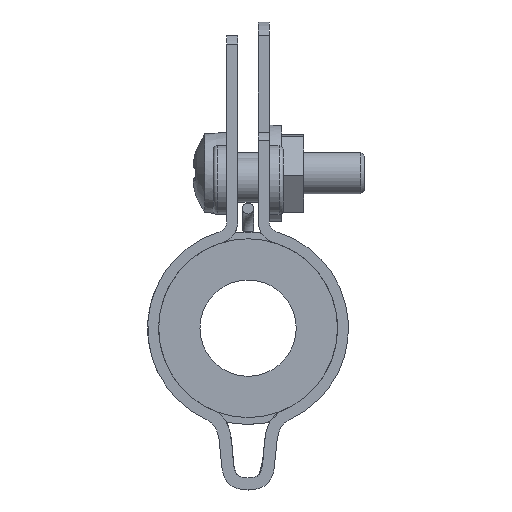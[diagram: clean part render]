
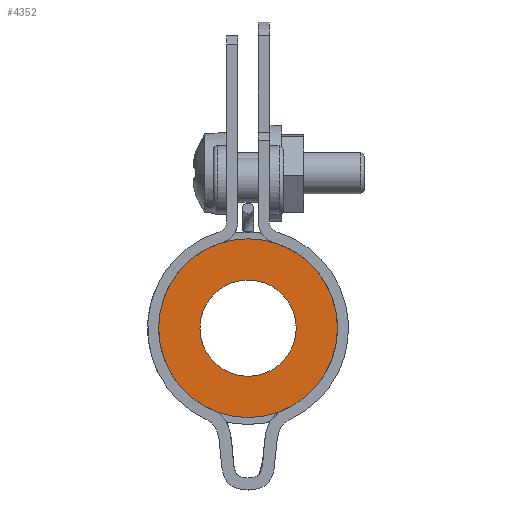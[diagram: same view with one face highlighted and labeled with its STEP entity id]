
A CAD part, front view. The second image highlights one B-rep face of the part: STEP entity #4352.
In plain terms, the highlighted planar face has unit normal (0, -1, 0).
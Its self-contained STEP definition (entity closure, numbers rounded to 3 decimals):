
#751=FACE_BOUND($,#1315,.T.);
#752=FACE_BOUND($,#1316,.T.);
#1315=EDGE_LOOP($,(#3479));
#1316=EDGE_LOOP($,(#3480));
#1552=CIRCLE($,#4714,6.5);
#1589=CIRCLE($,#4785,3.5);
#1909=VERTEX_POINT($,#7358);
#1954=VERTEX_POINT($,#7502);
#2443=EDGE_CURVE($,#1909,#1909,#1552,.T.);
#2488=EDGE_CURVE($,#1954,#1954,#1589,.T.);
#3479=ORIENTED_EDGE($,*,*,#2488,.T.);
#3480=ORIENTED_EDGE($,*,*,#2443,.T.);
#3904=PLANE($,#4787);
#4352=ADVANCED_FACE($,(#751,#752),#3904,.T.);
#4714=AXIS2_PLACEMENT_3D($,#7359,#5671,#5672);
#4785=AXIS2_PLACEMENT_3D($,#7503,#5817,#5818);
#4787=AXIS2_PLACEMENT_3D($,#7505,#5821,#5822);
#5671=DIRECTION('center_axis',(0.,-1.,0.));
#5672=DIRECTION('ref_axis',(1.,0.,0.));
#5817=DIRECTION('center_axis',(0.,1.,0.));
#5818=DIRECTION('ref_axis',(1.,0.,0.));
#5821=DIRECTION('center_axis',(0.,-1.,0.));
#5822=DIRECTION('ref_axis',(0.,0.,-1.));
#7358=CARTESIAN_POINT('',(15.145,46.577,19.693));
#7359=CARTESIAN_POINT('Origin',(21.645,46.577,19.693));
#7502=CARTESIAN_POINT('',(18.145,46.577,19.693));
#7503=CARTESIAN_POINT('Origin',(21.645,46.577,19.693));
#7505=CARTESIAN_POINT('Origin',(21.645,46.577,19.693));
